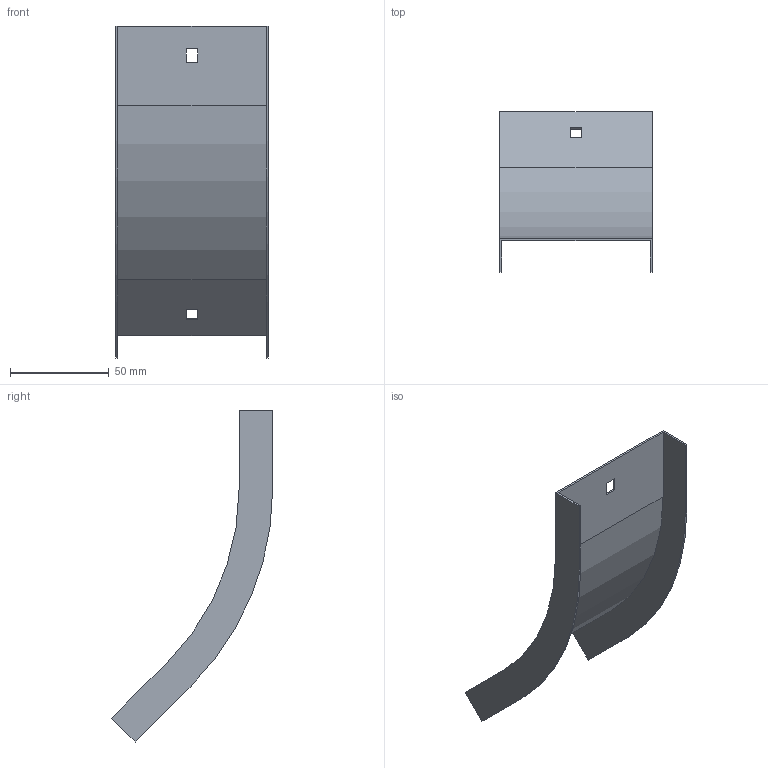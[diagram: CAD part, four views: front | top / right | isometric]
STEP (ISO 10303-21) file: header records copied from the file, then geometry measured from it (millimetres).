
FILE_DESCRIPTION (( 'STEP AP214' ), '1' );
FILE_NAME ('OS4_075.step', '2025-07-16T09:16:18', ( '' ), ( '' ), 'SwSTEP 2.0', 'SolidWorks 2023', '' );
FILE_SCHEMA (( 'AUTOMOTIVE_DESIGN' ));
Length unit declared in the file: millimetre
Products named in the file (1): OS4_075
Bounding box: 77 x 81.6 x 167.99 mm (x, y, z)
Volume: 19507.9 mm3; surface area: 39666.4 mm2
Topology: 1 solids, 1 shells, 26 faces, 72 edges, 48 vertices
Faces by surface type: plane 22, cylinder 4
Entity records: 855 total; most frequent: CARTESIAN_POINT 147, ORIENTED_EDGE 144, DIRECTION 134, EDGE_CURVE 72, VECTOR 64, LINE 64, VERTEX_POINT 48, AXIS2_PLACEMENT_3D 35
